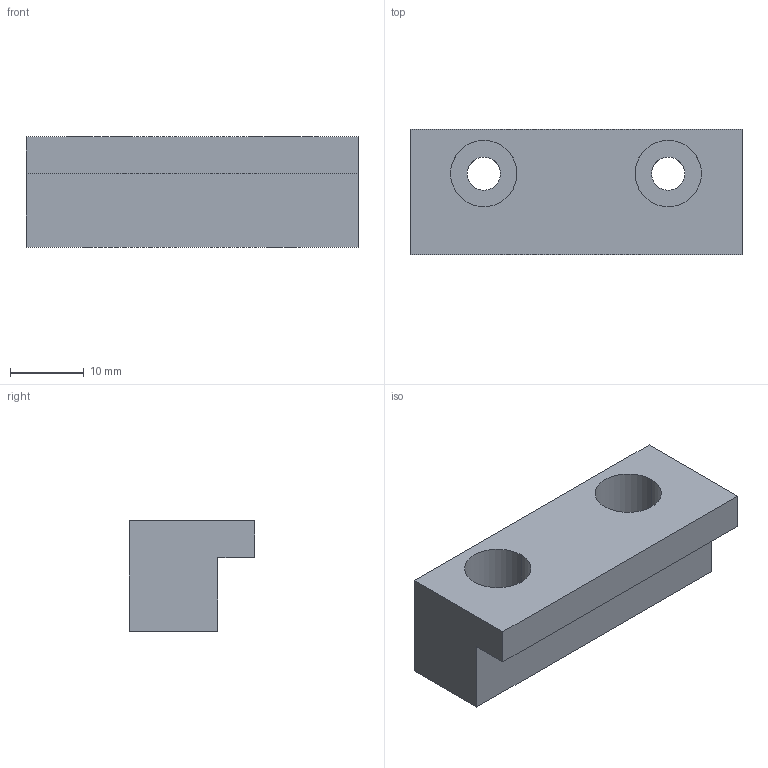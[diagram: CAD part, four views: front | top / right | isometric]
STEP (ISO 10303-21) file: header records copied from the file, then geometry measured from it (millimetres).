
FILE_DESCRIPTION (( 'STEP AP214' ), '1' );
FILE_NAME ('µ¼Ïò¿é.STEP', '2021-03-31T14:33:29', ( 'hp' ), ( '' ), 'SwSTEP 2.0', 'SolidWorks 2017', '' );
FILE_SCHEMA (( 'AUTOMOTIVE_DESIGN' ));
Length unit declared in the file: millimetre
Products named in the file (1): 絳砃輸
Bounding box: 45 x 17 x 15 mm (x, y, z)
Volume: 7984.5 mm3; surface area: 3876.7 mm2
Topology: 1 solids, 1 shells, 18 faces, 42 edges, 28 vertices
Faces by surface type: plane 10, cylinder 8
Entity records: 564 total; most frequent: DIRECTION 96, CARTESIAN_POINT 89, ORIENTED_EDGE 84, EDGE_CURVE 42, AXIS2_PLACEMENT_3D 35, VERTEX_POINT 28, VECTOR 26, LINE 26
